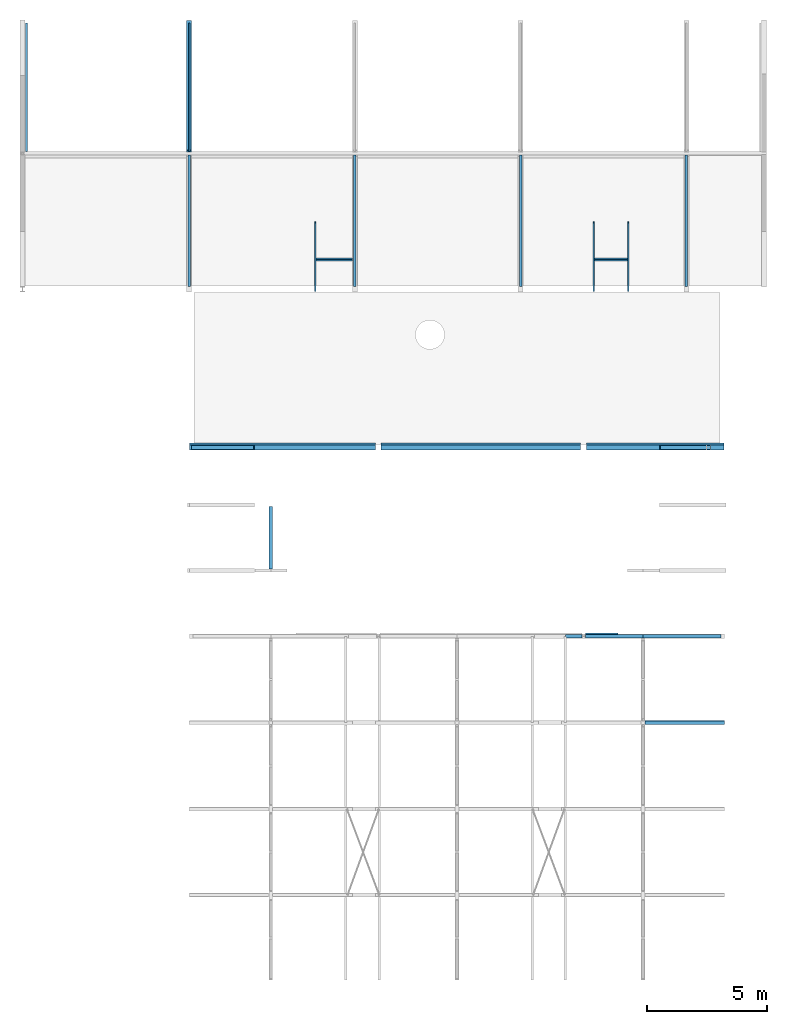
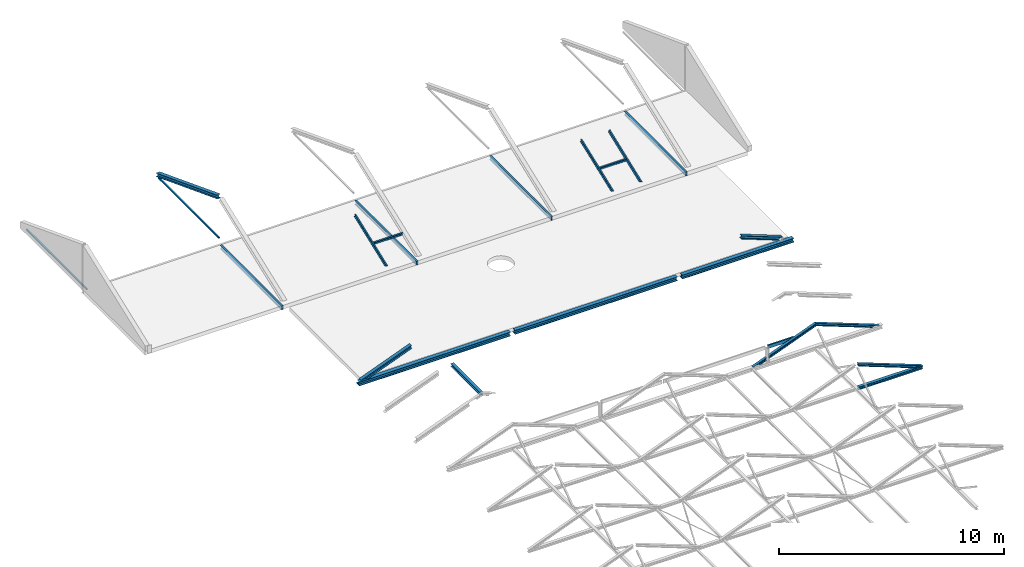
# One storey, part 4 of 10: 23 beams.
"""IFC2X3 building model written with IfcOpenShell, lengths in millimetres."""

from ifc_helpers import new_model, entity, si_unit, converted_unit, derived_unit, direction, frame, frame_2d, origin, origin_2d_with_axis, place, context, subcontext, project, spatial, polyline, rectangle, i_section, outline, extrude, boolean, clip, halfspace, bounded_halfspace, source, transform, mapped, material, type_object, type_shapes, element, save


model = new_model("IFC2X3")

# Units and contexts
model_context = context("Model", 3, precision=0.01, world=origin(), true_north=direction((6.123031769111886e-17, 1.0)))
body_context = subcontext(model_context, "Body", "Model", "MODEL_VIEW")
ifc_project = project(units=[si_unit("LENGTHUNIT", "METRE", prefix="MILLI"), si_unit("AREAUNIT", "SQUARE_METRE", prefix="MILLI"), si_unit("VOLUMEUNIT", "CUBIC_METRE"), converted_unit("PLANEANGLEUNIT", "DEGREE", entity("IfcPlaneAngleMeasure", 0.017453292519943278), si_unit("PLANEANGLEUNIT", "RADIAN"), dimensions=[0, 0, 0, 0, 0, 0, 0]), si_unit("MASSUNIT", "GRAM", prefix="KILO"), derived_unit("MASSDENSITYUNIT", [(si_unit("MASSUNIT", "GRAM", prefix="KILO"), 1), (si_unit("LENGTHUNIT", "METRE"), -3)]), derived_unit("IONCONCENTRATIONUNIT", [(si_unit("MASSUNIT", "GRAM", prefix="KILO"), 1), (si_unit("LENGTHUNIT", "METRE"), -3)]), derived_unit("MOMENTOFINERTIAUNIT", [(si_unit("LENGTHUNIT", "METRE"), 4)]), si_unit("TIMEUNIT", "SECOND"), si_unit("FREQUENCYUNIT", "HERTZ"), si_unit("THERMODYNAMICTEMPERATUREUNIT", "DEGREE_CELSIUS"), derived_unit("THERMALTRANSMITTANCEUNIT", [(si_unit("MASSUNIT", "GRAM", prefix="KILO"), 1), (si_unit("THERMODYNAMICTEMPERATUREUNIT", "KELVIN"), -1), (si_unit("TIMEUNIT", "SECOND"), -3)]), derived_unit("THERMALCONDUCTANCEUNIT", [(si_unit("MASSUNIT", "GRAM", prefix="KILO"), 1), (si_unit("THERMODYNAMICTEMPERATUREUNIT", "KELVIN"), -1), (si_unit("TIMEUNIT", "SECOND"), -3), (si_unit("LENGTHUNIT", "METRE"), 1)]), derived_unit("VOLUMETRICFLOWRATEUNIT", [(si_unit("LENGTHUNIT", "METRE", prefix="DECI"), 3), (si_unit("TIMEUNIT", "SECOND"), -1)]), derived_unit("MASSFLOWRATEUNIT", [(si_unit("MASSUNIT", "GRAM", prefix="KILO"), 1), (si_unit("TIMEUNIT", "SECOND"), -1)]), derived_unit("ROTATIONALFREQUENCYUNIT", [(si_unit("TIMEUNIT", "SECOND"), -1)]), si_unit("ELECTRICCURRENTUNIT", "AMPERE"), si_unit("ELECTRICVOLTAGEUNIT", "VOLT"), si_unit("POWERUNIT", "WATT"), si_unit("FORCEUNIT", "NEWTON", prefix="KILO"), si_unit("ILLUMINANCEUNIT", "LUX"), si_unit("LUMINOUSFLUXUNIT", "LUMEN"), si_unit("LUMINOUSINTENSITYUNIT", "CANDELA"), si_unit("ENERGYUNIT", "JOULE"), derived_unit("USERDEFINED", [(si_unit("MASSUNIT", "GRAM", prefix="KILO"), -1), (si_unit("LENGTHUNIT", "METRE"), -2), (si_unit("TIMEUNIT", "SECOND"), 3), (si_unit("LUMINOUSFLUXUNIT", "LUMEN"), 1)]), derived_unit("USERDEFINED", [(si_unit("MASSUNIT", "GRAM", prefix="KILO"), 1), (si_unit("TIMEUNIT", "SECOND"), -3), (si_unit("LENGTHUNIT", "METRE"), 3), (si_unit("ELECTRICCURRENTUNIT", "AMPERE"), -2)]), derived_unit("SOUNDPOWERUNIT", [(si_unit("MASSUNIT", "GRAM", prefix="KILO"), 1), (si_unit("TIMEUNIT", "SECOND"), -3), (si_unit("LENGTHUNIT", "METRE"), 2)]), derived_unit("SOUNDPRESSUREUNIT", [(si_unit("MASSUNIT", "GRAM", prefix="KILO"), 1), (si_unit("LENGTHUNIT", "METRE"), -1), (si_unit("TIMEUNIT", "SECOND"), -2)]), derived_unit("LINEARVELOCITYUNIT", [(si_unit("LENGTHUNIT", "METRE"), 1), (si_unit("TIMEUNIT", "SECOND"), -1)]), si_unit("PRESSUREUNIT", "PASCAL"), derived_unit("USERDEFINED", [(si_unit("MASSUNIT", "GRAM", prefix="KILO"), 1), (si_unit("LENGTHUNIT", "METRE"), -2), (si_unit("TIMEUNIT", "SECOND"), -2)]), derived_unit("LINEARFORCEUNIT", [(si_unit("MASSUNIT", "GRAM", prefix="KILO"), 1), (si_unit("TIMEUNIT", "SECOND"), -2)]), derived_unit("PLANARFORCEUNIT", [(si_unit("MASSUNIT", "GRAM", prefix="KILO"), 1), (si_unit("LENGTHUNIT", "METRE"), -1), (si_unit("TIMEUNIT", "SECOND"), -2)]), derived_unit("SPECIFICHEATCAPACITYUNIT", [(si_unit("THERMODYNAMICTEMPERATUREUNIT", "KELVIN"), -1), (si_unit("LENGTHUNIT", "METRE"), 2), (si_unit("TIMEUNIT", "SECOND"), -2)]), derived_unit("HEATFLUXDENSITYUNIT", [(si_unit("MASSUNIT", "GRAM", prefix="KILO"), 1), (si_unit("TIMEUNIT", "SECOND"), -3)]), derived_unit("HEATINGVALUEUNIT", [(si_unit("LENGTHUNIT", "METRE"), 2), (si_unit("TIMEUNIT", "SECOND"), -2)]), derived_unit("VAPORPERMEABILITYUNIT", [(si_unit("LENGTHUNIT", "METRE"), -1), (si_unit("TIMEUNIT", "SECOND"), 1)]), derived_unit("DYNAMICVISCOSITYUNIT", [(si_unit("MASSUNIT", "GRAM", prefix="KILO"), 1), (si_unit("TIMEUNIT", "SECOND"), -1), (si_unit("LENGTHUNIT", "METRE"), -1)]), derived_unit("THERMALEXPANSIONCOEFFICIENTUNIT", [(si_unit("THERMODYNAMICTEMPERATUREUNIT", "KELVIN"), -1)]), derived_unit("MODULUSOFELASTICITYUNIT", [(si_unit("MASSUNIT", "GRAM", prefix="KILO"), 1), (si_unit("LENGTHUNIT", "METRE"), -1), (si_unit("TIMEUNIT", "SECOND"), -2)]), derived_unit("ISOTHERMALMOISTURECAPACITYUNIT", [(si_unit("MASSUNIT", "GRAM", prefix="KILO"), -1), (si_unit("LENGTHUNIT", "METRE"), 3)]), derived_unit("MOISTUREDIFFUSIVITYUNIT", [(si_unit("TIMEUNIT", "SECOND"), -1), (si_unit("LENGTHUNIT", "METRE"), 2)]), derived_unit("MASSPERLENGTHUNIT", [(si_unit("MASSUNIT", "GRAM", prefix="KILO"), 1), (si_unit("LENGTHUNIT", "METRE"), -1)]), derived_unit("THERMALRESISTANCEUNIT", [(si_unit("MASSUNIT", "GRAM", prefix="KILO"), -1), (si_unit("TIMEUNIT", "SECOND"), 3), (si_unit("THERMODYNAMICTEMPERATUREUNIT", "KELVIN"), 1)]), derived_unit("ACCELERATIONUNIT", [(si_unit("LENGTHUNIT", "METRE"), 1), (si_unit("TIMEUNIT", "SECOND"), -2)]), derived_unit("ANGULARVELOCITYUNIT", [(si_unit("TIMEUNIT", "SECOND"), -1), (si_unit("PLANEANGLEUNIT", "RADIAN"), 1)]), derived_unit("LINEARSTIFFNESSUNIT", [(si_unit("MASSUNIT", "GRAM", prefix="KILO"), 1), (si_unit("TIMEUNIT", "SECOND"), -2)]), derived_unit("WARPINGCONSTANTUNIT", [(si_unit("LENGTHUNIT", "METRE"), 6)]), derived_unit("LINEARMOMENTUNIT", [(si_unit("MASSUNIT", "GRAM", prefix="KILO"), 1), (si_unit("LENGTHUNIT", "METRE"), 1), (si_unit("TIMEUNIT", "SECOND"), -2)]), derived_unit("TORQUEUNIT", [(si_unit("MASSUNIT", "GRAM", prefix="KILO"), 1), (si_unit("LENGTHUNIT", "METRE"), 2), (si_unit("TIMEUNIT", "SECOND"), -2)])], contexts=[model_context])

# Site, building, storey
site_placement = place(None, origin())
site = spatial("IfcSite", under=ifc_project, at=site_placement, Name="Default", CompositionType="ELEMENT")
building_placement = place(site_placement, origin())
building = spatial("IfcBuilding", under=site, at=building_placement, CompositionType="ELEMENT")
storey_placement = place(building_placement, frame((0.0, 0.0, 10840.0)))
storey = spatial("IfcBuildingStorey", under=building, at=storey_placement, Name="V3 dakvloer", CompositionType="ELEMENT", Elevation=10839.99999999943)

# Beams
ifc_material_1 = material(Name="Metal - Steel - S235 JRG2 (standaard)")
beam_type_1 = type_object("IfcBeamType", Name="btl_staal - HE(a-b-m):HEA160.", PredefinedType="NOTDEFINED")
beam_1_placement = place(storey_placement, frame((10225.896298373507, 22891.253624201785, 1269.7062881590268), z_axis=(0.0, 0.0, 1.0), x_axis=(0.0, -1.0, 0.0)))
element("IfcBeam", 1, at=beam_1_placement, inside=storey, type_object=beam_type_1, material=ifc_material_1, Name="btl_staal - HE(a-b-m):HEA160.", ObjectType="btl_staal - HE(a-b-m):HEA160.", context=body_context, shape_type="SweptSolid", body=[
    extrude(i_section(OverallWidth=160.00000000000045, OverallDepth=151.99999999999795, WebThickness=6.000000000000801, FlangeThickness=9.000000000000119, at=frame_2d((3.247180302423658e-12, -1.0871303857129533e-12), x_axis=(0.0, 1.0))), frame((0.0, 0.0, -76.0), z_axis=(1.0, 0.0, 0.0), x_axis=(0.0, 0.0, -1.0)), (0.0, 0.0, 1.0), 2593.3243055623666),
])
beam_2_placement = place(storey_placement, frame((25804.079892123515, 13894.605013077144, -4.289062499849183)))
element("IfcBeam", 2, at=beam_2_placement, inside=storey, type_object=beam_type_1, material=ifc_material_1, Name="btl_staal - HE(a-b-m):HEA160.", ObjectType="btl_staal - HE(a-b-m):HEA160.", context=body_context, shape_type="SweptSolid", body=[
    extrude(i_section(OverallWidth=160.00000000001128, OverallDepth=152.0000000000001, WebThickness=5.999999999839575, FlangeThickness=9.000000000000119, at=frame_2d((2.1671553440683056e-12, 1.0871303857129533e-12), x_axis=(0.0, 1.0))), frame((0.0, 0.0, -76.0), z_axis=(1.0, 0.0, 0.0), x_axis=(0.0, 0.0, -1.0)), (0.0, 0.0, 1.0), 3302.9062500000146),
])
beam_type_2 = type_object("IfcBeamType", Name="btl_staal - HE(a-b-m):HEA200.", PredefinedType="NOTDEFINED")
beam_3_placement = place(storey_placement, frame((6825.000781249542, 37628.345601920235, 2625.2612079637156), z_axis=(0.0, 0.35784805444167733, 0.9337798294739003), x_axis=(0.0, 0.9337798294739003, -0.35784805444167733)))
element("IfcBeam", 3, at=beam_3_placement, inside=storey, type_object=beam_type_2, material=ifc_material_1, Name="btl_staal - HE(a-b-m):HEA200.", ObjectType="btl_staal - HE(a-b-m):HEA200.", context=body_context, shape_type="SweptSolid", body=[
    clip(extrude(i_section(OverallWidth=200.0000000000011, OverallDepth=189.9999999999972, WebThickness=6.499999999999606, FlangeThickness=10.000000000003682, at=frame_2d((2.0321522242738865e-12, -1.0871303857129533e-12), x_axis=(0.0, 1.0))), frame((102.69041405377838, 0.0, -95.0), z_axis=(1.0, 0.0, 0.0), x_axis=(0.0, 0.0, -1.0)), (0.0, 0.0, 1.0), 5847.554556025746), halfspace(frame((5877.43216325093, -6188.677127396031, 0.0), z_axis=(0.9337798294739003, 0.0, 0.35784805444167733), x_axis=(0.0, 1.0, 0.0)), False)),
])
beam_type_3 = type_object("IfcBeamType", Name="btl_staal - HE(a-b-m):HEA180", PredefinedType="NOTDEFINED")
beam_4_placement = place(storey_placement, frame((26439.967916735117, 25344.605013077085, 1040.0), z_axis=(0.35818481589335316, 0.0, 0.9336507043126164), x_axis=(0.9336507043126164, 0.0, -0.35818481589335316)))
element("IfcBeam", 4, at=beam_4_placement, inside=storey, type_object=beam_type_3, material=ifc_material_1, Name="btl_staal - HE(a-b-m):HEA180", ObjectType="btl_staal - HE(a-b-m):HEA180", context=body_context, shape_type="SweptSolid", body=[
    clip(clip(extrude(i_section(OverallWidth=179.99999999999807, OverallDepth=170.99999999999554, WebThickness=5.999999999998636, FlangeThickness=9.500000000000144, at=frame_2d((-5.8335558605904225e-12, -2.1671553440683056e-12), x_axis=(0.0, 1.0))), frame((0.0, 0.0, -85.50000000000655), z_axis=(1.0, 0.0, 0.0), x_axis=(0.0, 0.0, -1.0)), (0.0, 0.0, 1.0), 2233.1887243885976), halfspace(frame((2115.6389855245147, 0.0, -171.0), z_axis=(0.824070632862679, 0.0, -0.5664870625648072), x_axis=(0.5664870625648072, 0.0, 0.824070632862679)), False)), halfspace(frame((0.0, 0.0, 0.0), z_axis=(-0.983272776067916, 0.0, -0.18213908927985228), x_axis=(-0.18213908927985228, 0.0, 0.983272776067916)), False)),
])
beam_type_4 = type_object("IfcBeamType", Name="btl_staal - UNP:UNP180.", PredefinedType="NOTDEFINED")
beam_5_placement = place(storey_placement, frame((23310.014764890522, 17583.905013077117, 860.0)))
element("IfcBeam", 5, at=beam_5_placement, inside=storey, type_object=beam_type_4, material=ifc_material_1, Name="btl_staal - UNP:UNP180.", ObjectType="btl_staal - UNP:UNP180.", context=body_context, shape_type="SweptSolid", body=[
    extrude(outline(polyline([(-90.0, -37.0), (90.0, -37.0), (90.0, 33.0), (79.0, 33.0), (69.18016469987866, -29.0), (-69.18016469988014, -29.0), (-79.0, 33.0), (-90.0, 33.0), (-90.0, -37.0)])), frame((6.471842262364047, 17.699999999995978, -90.0), z_axis=(1.0, 0.0, 0.0), x_axis=(0.0, 0.0, -1.0)), (0.0, 0.0, 1.0), 1356.0538701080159),
])
beam_type_5 = type_object("IfcBeamType", Name="btl_staal - HE(a-b-m):HEA140", PredefinedType="NOTDEFINED")
beam_6_placement = place(storey_placement, frame((25724.03782138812, 17494.605013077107, 1300.4135475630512), z_axis=(0.35818481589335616, 0.0, 0.9336507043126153), x_axis=(0.9336507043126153, 0.0, -0.35818481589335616)))
element("IfcBeam", 6, at=beam_6_placement, inside=storey, type_object=beam_type_5, material=ifc_material_1, Name="btl_staal - HE(a-b-m):HEA140", ObjectType="btl_staal - HE(a-b-m):HEA140", context=body_context, shape_type="SweptSolid", body=[
    clip(clip(extrude(i_section(OverallWidth=140.00000000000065, OverallDepth=133.0000000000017, WebThickness=5.500000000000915, FlangeThickness=8.500000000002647, at=frame_2d((0.0, -1.0800249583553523e-12), x_axis=(0.0, 1.0))), frame((0.0, 0.0, -66.5000000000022), z_axis=(1.0, 0.0, 0.0), x_axis=(0.0, 0.0, -1.0)), (0.0, 0.0, 1.0), 3468.769103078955), halfspace(frame((3122.089014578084, 3574.614539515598, -133.0), z_axis=(0.3581848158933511, 0.0, -0.9336507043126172), x_axis=(0.0, -1.0, 0.0)), False)), halfspace(frame((0.0, 0.0, 0.0), z_axis=(-0.9336508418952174, 0.0, -0.3581844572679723), x_axis=(0.0, 1.0, 0.0)), False)),
])
beam_7_placement = place(storey_placement, frame((25728.832954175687, 13894.605013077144, 1298.573947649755), z_axis=(0.3581848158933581, 0.0, 0.9336507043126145), x_axis=(0.9336507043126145, 0.0, -0.3581848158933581)))
element("IfcBeam", 7, at=beam_7_placement, inside=storey, type_object=beam_type_5, material=ifc_material_1, Name="btl_staal - HE(a-b-m):HEA140", ObjectType="btl_staal - HE(a-b-m):HEA140", context=body_context, shape_type="SweptSolid", body=[
    clip(clip(clip(extrude(outline(polyline([(-70.0, -58.0), (-70.0, -66.49999999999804), (70.0, -66.49999999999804), (70.0, -58.0), (2.7500000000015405, -58.0), (2.7500000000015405, 58.0), (70.0, 58.0), (70.0, 66.50000000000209), (-70.0, 66.50000000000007), (-70.0, 58.0), (-2.7499999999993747, 58.0), (-2.7499999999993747, -58.0), (-70.0, -58.0)])), frame((80.59431391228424, 0.0, -66.5000000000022), z_axis=(-1.0, 0.0, 0.0), x_axis=(0.0, 1.0, 0.0)), (0.0, 0.0, -1.0), 3540.0865367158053), halfspace(frame((80.59431391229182, 3643.731496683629, 0.0), z_axis=(-0.9336507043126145, 0.0, -0.3581848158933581), x_axis=(0.0, -1.0, 0.0)), False)), bounded_halfspace(frame((3287.160604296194, 3643.731496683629, -134.3671607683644), z_axis=(0.3581848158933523, 0.0, -0.9336507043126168), x_axis=(0.0, -1.0, 0.0)), False, frame((80.59431391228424, 0.0, -66.5000000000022), z_axis=(-1.0, 0.0, 0.0), x_axis=(0.0, 1.0, 0.0)), polyline([(70.0, -60.084210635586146), (-70.0, -60.08421063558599), (-70.0, -58.0), (-2.7500000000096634, -58.0), (-2.750000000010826, 58.0), (-70.0, 58.0), (-70.0, 66.50000000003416), (70.0, 66.50000000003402), (70.0, 58.0), (2.7499999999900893, 58.0), (2.749999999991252, -58.0), (70.0, -58.0), (70.0, -60.084210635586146)]))), bounded_halfspace(frame((3620.6808506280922, 3643.731496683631, -6.4157893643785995), z_axis=(0.9336507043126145, 0.0, 0.3581848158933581), x_axis=(0.0, -1.0, 0.0)), False, frame((80.59431391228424, 0.0, -66.5000000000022), z_axis=(-1.0, 0.0, 0.0), x_axis=(0.0, 1.0, 0.0)), polyline([(-70.0, -60.08421063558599), (70.0, -60.084210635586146), (70.0, -66.49999999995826), (-70.0, -66.4999999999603), (-70.0, -60.08421063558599)]))),
])
beam_type_6 = type_object("IfcBeamType", Name="btl_staal - HE(a-b-m):HEA140", PredefinedType="BEAM", material=ifc_material_1)
shared_shape_1 = source(origin(), body_context, "Body", "SweptSolid", [
    clip(clip(extrude(i_section(OverallWidth=140.00000000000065, OverallDepth=133.00000000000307, WebThickness=5.50000000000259, FlangeThickness=8.500000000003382, at=frame_2d((1.0871303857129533e-12, 2.0250467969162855e-12), x_axis=(1.0, 0.0))), frame((23292.66736459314, 17494.605013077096, 11136.42141759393), z_axis=(0.9336509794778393, 0.0, 0.3581840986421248), x_axis=(0.0, -1.0, 0.0)), (0.0, 0.0, 1.0), 2629.6654245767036), halfspace(frame((25724.03782138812, 17494.605013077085, 12140.413547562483), z_axis=(1.0, 0.0, -3.8411084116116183e-07), x_axis=(0.0, -1.0, 0.0)), False)), halfspace(frame((23316.486607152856, 13862.46849925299, 11074.333627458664), z_axis=(-1.0, 0.0, 0.0), x_axis=(0.0, 1.0, 0.0)), False)),
    clip(clip(extrude(i_section(OverallWidth=140.00000000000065, OverallDepth=133.00000000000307, WebThickness=5.49999999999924, FlangeThickness=8.500000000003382, at=frame_2d((0.0, 1.0160761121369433e-12), x_axis=(1.0, 0.0))), frame((22509.230908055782, 17494.6050130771, 10835.865334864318), z_axis=(0.9336509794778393, 0.0, 0.3581840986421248), x_axis=(0.0, -1.0, 0.0)), (0.0, 0.0, 1.0), 747.6829746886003), halfspace(frame((22856.729098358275, 13862.468499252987, 10897.953124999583), z_axis=(0.0, 0.0, -1.0), x_axis=(0.0, 1.0, 0.0)), False)), halfspace(frame((23183.486607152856, 13862.46849925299, 11165.761277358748), z_axis=(1.0, 0.0, 0.0), x_axis=(0.0, 1.0, 0.0)), False)),
])
type_shapes(beam_type_6, [shared_shape_1])
beam_8_placement = place(storey_placement, frame((0.0, 0.0, -10840.0)))
element("IfcBeam", 8, at=beam_8_placement, inside=storey, type_object=beam_type_6, material=ifc_material_1, Name="btl_staal - HE(a-b-m):HEA140", ObjectType="btl_staal - HE(a-b-m):HEA140", context=body_context, shape_type="MappedRepresentation", body=[
    mapped(shared_shape_1, transform((0.0, 0.0, 0.0), scale=1.0)),
])
ifc_material_2 = material(Name="Metal - Steel - S355 JR (standaard-geintegreerde liggers)")
beam_type_7 = type_object("IfcBeamType", Name="btl_staal - SFB:SFB HEB200+300x15", PredefinedType="BEAM", material=ifc_material_2)
shared_shape_2 = source(origin(), body_context, "Body", "SweptSolid", [
    extrude(i_section(OverallWidth=199.99999999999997, OverallDepth=199.99999999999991, WebThickness=9.000000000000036, FlangeThickness=15.000000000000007, at=frame_2d((1.4210854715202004e-14, -2.3447910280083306e-13), x_axis=(0.0, 1.0))), frame((-3868.4311637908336, 0.0, 47.0), z_axis=(1.0, 0.0, 0.0), x_axis=(0.0, 0.0, -1.0)), (0.0, 0.0, 1.0), 7736.862327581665),
    extrude(rectangle(XDim=15.000000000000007, YDim=300.0, at=origin_2d_with_axis()), frame((-3868.4311637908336, 50.0, -60.50000000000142), z_axis=(1.0, 0.0, 0.0), x_axis=(0.0, 0.0, -1.0)), (0.0, 0.0, 1.0), 7736.862327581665),
])
type_shapes(beam_type_7, [shared_shape_2])
beam_9_placement = place(storey_placement, frame((10711.431945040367, 25344.60501307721, -157.0)))
element("IfcBeam", 9, at=beam_9_placement, inside=storey, type_object=beam_type_7, material=ifc_material_2, Name="btl_staal - SFB:SFB HEB200+300x15", ObjectType="btl_staal - SFB:SFB HEB200+300x15", context=body_context, shape_type="MappedRepresentation", body=[
    mapped(shared_shape_2, transform((0.0, 0.0, 0.0), scale=1.0)),
])
beam_type_8 = type_object("IfcBeamType", Name="btl_staal - IPE:IPE200", PredefinedType="NOTDEFINED")
beam_10_placement = place(storey_placement, frame((6825.0007812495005, 32047.573205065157, -10.0), z_axis=(0.0, 0.0, 1.0), x_axis=(0.0, 1.0, 0.0)))
element("IfcBeam", 10, at=beam_10_placement, inside=storey, type_object=beam_type_8, material=ifc_material_1, Name="btl_staal - IPE:IPE200", ObjectType="btl_staal - IPE:IPE200", context=body_context, shape_type="SweptSolid", body=[
    extrude(i_section(OverallWidth=100.0, OverallDepth=200.0, WebThickness=5.59999999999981, FlangeThickness=8.50000000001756, at=frame_2d((-1.0871303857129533e-12, 5.435651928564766e-13), x_axis=(0.0, 1.0))), frame((0.0, 0.0, -100.0), z_axis=(1.0, 0.0, 0.0), x_axis=(0.0, 0.0, -1.0)), (0.0, 0.0, 1.0), 5473.812500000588),
])
beam_11_placement = place(storey_placement, frame((13725.00078124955, 32047.57320506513, -10.0), z_axis=(0.0, 0.0, 1.0), x_axis=(0.0, 1.0, 0.0)))
element("IfcBeam", 11, at=beam_11_placement, inside=storey, type_object=beam_type_8, material=ifc_material_1, Name="btl_staal - IPE:IPE200", ObjectType="btl_staal - IPE:IPE200", context=body_context, shape_type="SweptSolid", body=[
    extrude(i_section(OverallWidth=100.0000000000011, OverallDepth=200.0, WebThickness=5.600000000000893, FlangeThickness=8.50000000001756, at=frame_2d((-1.0871303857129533e-12, -1.0835776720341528e-12), x_axis=(0.0, 1.0))), frame((0.0, 0.0, -100.0), z_axis=(1.0, 0.0, 0.0), x_axis=(0.0, 0.0, -1.0)), (0.0, 0.0, 1.0), 5473.812500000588),
])
beam_12_placement = place(storey_placement, frame((20624.98465402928, 32047.573205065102, -10.0), z_axis=(0.0, 0.0, 1.0), x_axis=(0.0, 1.0, 0.0)))
element("IfcBeam", 12, at=beam_12_placement, inside=storey, type_object=beam_type_8, material=ifc_material_1, Name="btl_staal - IPE:IPE200", ObjectType="btl_staal - IPE:IPE200", context=body_context, shape_type="SweptSolid", body=[
    extrude(i_section(OverallWidth=99.99999999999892, OverallDepth=200.0, WebThickness=5.599999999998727, FlangeThickness=8.50000000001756, at=frame_2d((-1.0871303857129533e-12, 2.1671553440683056e-12), x_axis=(0.0, 1.0))), frame((0.0, 0.0, -100.0), z_axis=(1.0, 0.0, 0.0), x_axis=(0.0, 0.0, -1.0)), (0.0, 0.0, 1.0), 5473.812500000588),
])
beam_13_placement = place(storey_placement, frame((27524.97952010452, 32047.573205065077, -10.0), z_axis=(0.0, 0.0, 1.0), x_axis=(0.0, 1.0, 0.0)))
element("IfcBeam", 13, at=beam_13_placement, inside=storey, type_object=beam_type_8, material=ifc_material_1, Name="btl_staal - IPE:IPE200", ObjectType="btl_staal - IPE:IPE200", context=body_context, shape_type="SweptSolid", body=[
    extrude(i_section(OverallWidth=99.99999999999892, OverallDepth=200.0, WebThickness=5.599999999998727, FlangeThickness=8.50000000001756, at=frame_2d((-1.0871303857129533e-12, -2.1671553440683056e-12), x_axis=(0.0, 1.0))), frame((0.0, 0.0, -100.0), z_axis=(1.0, 0.0, 0.0), x_axis=(0.0, 0.0, -1.0)), (0.0, 0.0, 1.0), 5473.812500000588),
])
ifc_material_3 = material(Name="Metal - Steel - S275 J0H (standaard-kokers/buizen)")
beam_type_9 = type_object("IfcBeamType", Name="btl_staal - Koker:K70x70x6.0", PredefinedType="NOTDEFINED")
beam_14_placement = place(storey_placement, frame((6825.000781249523, 43012.38570506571, 315.9000000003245), z_axis=(0.0, 0.0, 1.0), x_axis=(0.0, -1.0, 0.0)))
element("IfcBeam", 14, at=beam_14_placement, inside=storey, type_object=beam_type_9, material=ifc_material_3, Name="btl_staal - Koker:K70x70x6.0", ObjectType="btl_staal - Koker:K70x70x6.0", context=body_context, shape_type="SweptSolid", body=[
    boolean("DIFFERENCE", extrude(rectangle(XDim=70.00000000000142, YDim=70.00000000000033, at=frame_2d((1.0800249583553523e-12, -1.0800249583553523e-12), x_axis=(1.0, 0.0))), frame((0.0, 0.0, -35.0), z_axis=(1.0, 0.0, 0.0), x_axis=(0.0, 0.0, -1.0)), (0.0, 0.0, 1.0), 5344.999999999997), extrude(rectangle(XDim=57.99999999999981, YDim=57.99999999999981, at=frame_2d((0.0, 0.0), x_axis=(0.0, 1.0))), frame((0.0, 0.0, -35.0), z_axis=(1.0, 0.0, 0.0), x_axis=(0.0, -1.0, 0.0)), (0.0, 0.0, 1.0), 5344.999999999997)),
])
beam_15_placement = place(storey_placement, frame((55.0, 43012.385705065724, -100.0), z_axis=(0.0, 0.0, 1.0), x_axis=(0.0, -1.0, 0.0)))
element("IfcBeam", 15, at=beam_15_placement, inside=storey, type_object=beam_type_9, material=ifc_material_3, Name="btl_staal - Koker:K70x70x6.0", ObjectType="btl_staal - Koker:K70x70x6.0", context=body_context, shape_type="SweptSolid", body=[
    boolean("DIFFERENCE", extrude(rectangle(XDim=70.00000000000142, YDim=70.0000000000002, at=frame_2d((1.0800249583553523e-12, 0.0), x_axis=(1.0, 0.0))), frame((0.0, 0.0, -35.0), z_axis=(1.0, 0.0, 0.0), x_axis=(0.0, 0.0, -1.0)), (0.0, 0.0, 1.0), 5344.999999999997), extrude(rectangle(XDim=57.99999999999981, YDim=57.999999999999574, at=frame_2d((0.0, 0.0), x_axis=(0.0, 1.0))), frame((0.0, 0.0, -35.0), z_axis=(1.0, 0.0, 0.0), x_axis=(0.0, -1.0, 0.0)), (0.0, 0.0, 1.0), 5344.999999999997)),
])
beam_type_10 = type_object("IfcBeamType", Name="btl_staal - HE(a-b-m):HEA180", PredefinedType="BEAM", material=ifc_material_1)
shared_shape_3 = source(origin(), body_context, "Body", "SweptSolid", [
    clip(extrude(outline(polyline([(-3.0, -28.917140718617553), (3.0, -28.917140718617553), (3.0, 6.472380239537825), (90.0, 6.472380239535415), (90.0, 15.972380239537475), (-90.0, 15.972380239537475), (-90.0, 6.472380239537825), (-3.0, 6.472380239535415), (-3.0, -28.917140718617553)])), frame((6979.723691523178, 25344.605013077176, 10743.242458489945), z_axis=(0.9336509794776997, 0.0, 0.35818409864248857), x_axis=(0.0, -1.0, 0.0)), (0.0, 0.0, 1.0), 1.5764272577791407), halfspace(frame((6991.17029475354, 28114.174785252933, 10718.87335016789), z_axis=(0.9205048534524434, 0.0, 0.3907311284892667), x_axis=(0.0, -1.0, 0.0)), False)),
    clip(clip(extrude(i_section(OverallWidth=179.99999999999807, OverallDepth=170.99999999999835, WebThickness=5.999999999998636, FlangeThickness=9.50000000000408, at=frame_2d((2.1671553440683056e-12, 1.0018652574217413e-12), x_axis=(1.0, 0.0))), frame((6954.82000370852, 25344.605013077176, 10808.156988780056), z_axis=(0.9336509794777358, 0.0, 0.35818409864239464), x_axis=(0.0, -1.0, 0.0)), (0.0, 0.0, 1.0), 2769.5697721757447), halfspace(frame((6939.755082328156, 28114.174785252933, 10840.0), z_axis=(0.0, 0.0, -1.0), x_axis=(0.0, -1.0, 0.0)), False)), halfspace(frame((9510.006793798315, 25344.605013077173, 11880.0), z_axis=(0.9832728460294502, 0.0, 0.18213871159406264), x_axis=(0.18213871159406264, 0.0, -0.9832728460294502)), False)),
])
type_shapes(beam_type_10, [shared_shape_3])
beam_16_placement = place(storey_placement, frame((0.0, 0.0, -10840.0)))
element("IfcBeam", 16, at=beam_16_placement, inside=storey, type_object=beam_type_10, material=ifc_material_1, Name="btl_staal - HE(a-b-m):HEA180", ObjectType="btl_staal - HE(a-b-m):HEA180", context=body_context, shape_type="MappedRepresentation", body=[
    mapped(shared_shape_3, transform((0.0, 0.0, 0.0), scale=1.0)),
])
beam_type_11 = type_object("IfcBeamType", Name="btl_staal - SFB:SFB HEB200+300x15", PredefinedType="BEAM", material=ifc_material_2)
shared_shape_4 = source(origin(), body_context, "Body", "SweptSolid", [
    extrude(i_section(OverallWidth=199.99999999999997, OverallDepth=199.99999999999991, WebThickness=9.000000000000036, FlangeThickness=15.000000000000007, at=frame_2d((1.4210854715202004e-14, -2.3447910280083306e-13), x_axis=(0.0, 1.0))), frame((-2860.9997674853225, 0.0, 47.0), z_axis=(1.0, 0.0, 0.0), x_axis=(0.0, 0.0, -1.0)), (0.0, 0.0, 1.0), 5726.999534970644),
    extrude(rectangle(XDim=15.000000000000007, YDim=300.0, at=origin_2d_with_axis()), frame((-2860.9997674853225, 50.0, -60.50000000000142), z_axis=(1.0, 0.0, 0.0), x_axis=(0.0, 0.0, -1.0)), (0.0, 0.0, 1.0), 5726.999534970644),
])
type_shapes(beam_type_11, [shared_shape_4])
beam_17_placement = place(storey_placement, frame((26235.9863746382, 25344.605013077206, -157.0)))
element("IfcBeam", 17, at=beam_17_placement, inside=storey, type_object=beam_type_11, material=ifc_material_2, Name="btl_staal - SFB:SFB HEB200+300x15", ObjectType="btl_staal - SFB:SFB HEB200+300x15", context=body_context, shape_type="MappedRepresentation", body=[
    mapped(shared_shape_4, transform((0.0, 0.0, 0.0), scale=1.0)),
])
beam_type_12 = type_object("IfcBeamType", Name="btl_staal - SFB:SFB HEB200+300x15", PredefinedType="BEAM", material=ifc_material_2)
shared_shape_5 = source(origin(), body_context, "Body", "SweptSolid", [
    extrude(i_section(OverallWidth=199.99999999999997, OverallDepth=199.99999999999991, WebThickness=9.000000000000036, FlangeThickness=15.000000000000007, at=frame_2d((1.4210854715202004e-14, -2.3447910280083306e-13), x_axis=(0.0, 1.0))), frame((-4152.561749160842, 0.0, 47.0), z_axis=(1.0, 0.0, 0.0), x_axis=(0.0, 0.0, -1.0)), (0.0, 0.0, 1.0), 8305.123497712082),
    extrude(rectangle(XDim=15.000000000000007, YDim=300.0, at=origin_2d_with_axis()), frame((-4152.561749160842, 50.0, -60.50000000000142), z_axis=(1.0, 0.0, 0.0), x_axis=(0.0, 0.0, -1.0)), (0.0, 0.0, 1.0), 8305.123497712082),
])
type_shapes(beam_type_12, [shared_shape_5])
beam_18_placement = place(storey_placement, frame((18972.42485799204, 25344.605013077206, -157.0)))
element("IfcBeam", 18, at=beam_18_placement, inside=storey, type_object=beam_type_12, material=ifc_material_2, Name="btl_staal - SFB:SFB HEB200+300x15", ObjectType="btl_staal - SFB:SFB HEB200+300x15", context=body_context, shape_type="MappedRepresentation", body=[
    mapped(shared_shape_5, transform((0.0, 0.0, 0.0), scale=1.0)),
])
beam_type_13 = type_object("IfcBeamType", Name="btl_staal - UNP:UNP160", PredefinedType="NOTDEFINED")
beam_19_placement = place(storey_placement, frame((23674.87287445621, 34701.03891072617, 1529.4123215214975), z_axis=(0.0, -0.3578727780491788, 0.9337703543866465), x_axis=(0.0, -0.9337703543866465, -0.3578727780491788)))
element("IfcBeam", 19, at=beam_19_placement, inside=storey, type_object=beam_type_13, material=ifc_material_1, Name="btl_staal - UNP:UNP160", ObjectType="btl_staal - UNP:UNP160", context=body_context, shape_type="SweptSolid", body=[
    clip(extrude(outline(polyline([(69.50000000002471, -30.624999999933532), (80.0, -30.624999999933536), (80.0, 34.375000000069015), (-80.0, 34.37499999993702), (-80.0, -30.625000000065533), (-69.49999999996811, -30.625000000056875), (-60.39289468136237, 26.87499999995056), (60.392894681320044, 26.875000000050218), (69.50000000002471, -30.624999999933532)])), frame((0.0, -15.975000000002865, -80.0), z_axis=(1.0, 0.0, 0.0), x_axis=(0.0, 0.0, -1.0)), (0.0, 0.0, 1.0), 3060.0070993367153), halfspace(frame((3207.7790289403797, -3098.9748641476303, 198.60705225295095), z_axis=(0.802288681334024, 0.0, -0.596936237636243), x_axis=(0.0, 1.0, 0.0)), False)),
])
beam_20_placement = place(storey_placement, frame((12094.04222611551, 34701.038910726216, 1529.4123215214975), z_axis=(0.0, -0.3578727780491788, 0.9337703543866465), x_axis=(0.0, -0.9337703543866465, -0.3578727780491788)))
element("IfcBeam", 20, at=beam_20_placement, inside=storey, type_object=beam_type_13, material=ifc_material_1, Name="btl_staal - UNP:UNP160", ObjectType="btl_staal - UNP:UNP160", context=body_context, shape_type="SweptSolid", body=[
    clip(extrude(outline(polyline([(69.50000000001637, -30.6249999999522), (80.0, -30.6249999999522), (80.0, 34.37500000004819), (-80.0, 34.37499999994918), (-80.0, -30.625000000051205), (-69.4999999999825, -30.625000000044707), (-60.39289468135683, 26.87499999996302), (60.39289468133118, 26.875000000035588), (69.50000000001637, -30.6249999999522)])), frame((0.0, -15.974999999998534, -80.0), z_axis=(1.0, 0.0, 0.0), x_axis=(0.0, 0.0, -1.0)), (0.0, 0.0, 1.0), 3060.0070993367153), halfspace(frame((3207.7790289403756, -3098.974864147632, 198.60705225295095), z_axis=(0.802288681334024, 0.0, -0.596936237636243), x_axis=(0.0, 1.0, 0.0)), False)),
])
beam_21_placement = place(storey_placement, frame((25088.77287445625, 34701.03891072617, 1529.4123215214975), z_axis=(0.0, -0.3578727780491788, 0.9337703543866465), x_axis=(0.0, -0.9337703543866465, -0.3578727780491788)))
element("IfcBeam", 21, at=beam_21_placement, inside=storey, type_object=beam_type_13, material=ifc_material_1, Name="btl_staal - UNP:UNP160", ObjectType="btl_staal - UNP:UNP160", context=body_context, shape_type="SweptSolid", body=[
    clip(extrude(outline(polyline([(-80.0, -34.374999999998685), (80.0, -34.374999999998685), (80.0, 30.625000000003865), (69.499999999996, 30.624999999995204), (60.392894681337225, -26.874999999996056), (-60.39289468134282, -26.874999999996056), (-69.50000000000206, 30.625000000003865), (-80.0, 30.625000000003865), (-80.0, -34.374999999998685)])), frame((0.0, 15.974999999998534, -80.0), z_axis=(1.0, 0.0, 0.0), x_axis=(0.0, 0.0, -1.0)), (0.0, 0.0, 1.0), 3060.007099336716), halfspace(frame((3207.7790289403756, -3070.7748641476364, 198.60705225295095), z_axis=(0.802288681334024, 0.0, -0.596936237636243), x_axis=(0.0, 1.0, 0.0)), False)),
])
beam_22_placement = place(storey_placement, frame((23674.87287445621, 33153.47872987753, 936.4000000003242)))
element("IfcBeam", 22, at=beam_22_placement, inside=storey, type_object=beam_type_13, material=ifc_material_1, Name="btl_staal - UNP:UNP160", ObjectType="btl_staal - UNP:UNP160", context=body_context, shape_type="SweptSolid", body=[
    extrude(outline(polyline([(-80.0, -34.37500000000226), (80.0, -34.37500000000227), (80.0, 30.624999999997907), (69.49999999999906, 30.624999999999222), (60.39289468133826, -26.875000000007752), (-60.39289468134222, -26.87500000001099), (-69.50000000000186, 30.624999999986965), (-80.0, 30.624999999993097), (-80.0, -34.37500000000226)])), frame((18.405446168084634, 13.573005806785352, -80.4423653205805), z_axis=(1.0, 0.0, 0.0), x_axis=(0.0, -0.3562488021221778, 0.934391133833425)), (0.0, 0.0, 1.0), 1377.0945545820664),
])
beam_23_placement = place(storey_placement, frame((12094.04222611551, 33153.47872987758, 936.4000000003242)))
element("IfcBeam", 23, at=beam_23_placement, inside=storey, type_object=beam_type_13, material=ifc_material_1, Name="btl_staal - UNP:UNP160", ObjectType="btl_staal - UNP:UNP160", context=body_context, shape_type="SweptSolid", body=[
    extrude(outline(polyline([(-80.0, -34.375000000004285), (80.0, -34.3750000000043), (80.0, 30.62499999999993), (69.4999999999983, 30.625000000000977), (60.39289468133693, -26.875000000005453), (-60.39289468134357, -26.875000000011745), (-69.50000000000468, 30.62499999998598), (-80.0, 30.62499999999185), (-80.0, -34.375000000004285)])), frame((18.4054461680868, 13.57300580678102, -80.4423653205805), z_axis=(1.0, 0.0, 0.0), x_axis=(0.0, -0.3562488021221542, 0.9343911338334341)), (0.0, 0.0, 1.0), 1512.5555607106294),
])

save(model, "model.ifc")
